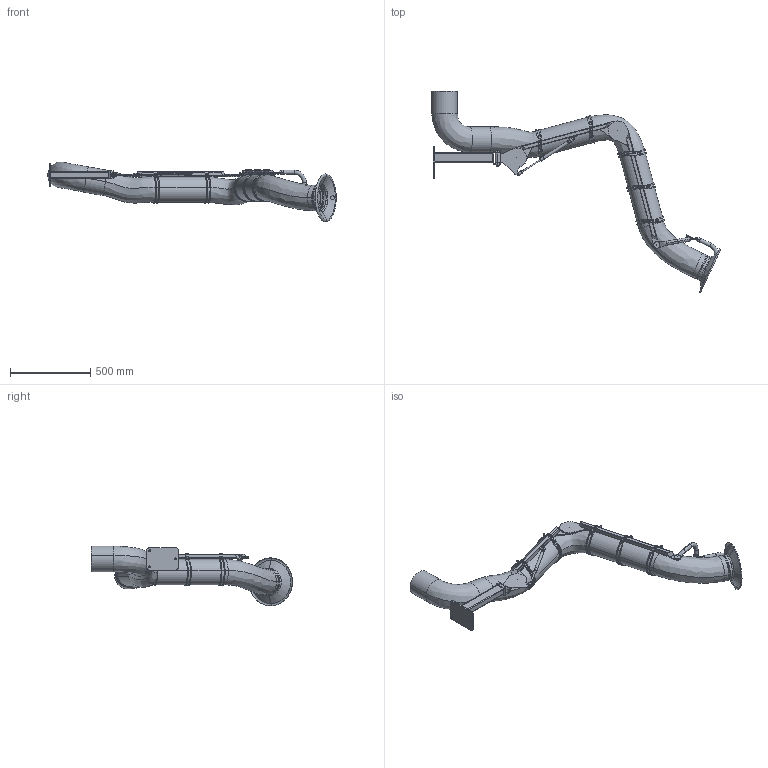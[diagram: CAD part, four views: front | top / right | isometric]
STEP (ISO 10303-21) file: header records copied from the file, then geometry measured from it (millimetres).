
FILE_DESCRIPTION((''),'2;1');
FILE_NAME('PSR_2000-160_EXD','2022-10-04T11:35:47',('Tomas Bellgran'),(''),'CREO PARAMETRIC BY PTC INC, 2018260','CREO PARAMETRIC BY PTC INC, 2018260','');
FILE_SCHEMA(('AUTOMOTIVE_DESIGN { 1 0 10303 214 1 1 1 1 }'));
Length unit declared in the file: millimetre
Products named in the file (35): 141554; 141580; 141581; 122701; 141512; 141556; 141582; 141587; 141522; 121391; 131150; 139382; 131151; 131172; 144356; 141589; 134343_AF0; G_P136_WELD-REF; 141590; 122717_LIGHT; 120127_COMPL_LIGHT; 130315; ROD_STAB_8-160-REF; 131095; 130320_AF27; 131145; 139631; 139616; 139615; 139614; 139628; 141640; 124460; 107523-11; PSR_2000-160_EXD
Assembly tree (50 placements, depth 3):
  PSR_2000-160_EXD
    141512
      141554
      141580
      141581
      122701
    141522
      141556
      141582
      141587
    121391  x4
    131150
    131172
      139382
      131151
    144356  x2
    141590
      141589
      134343_AF0
      G_P136_WELD-REF
    122717_LIGHT
    120127_COMPL_LIGHT
    130320_AF27
      130315
      ROD_STAB_8-160-REF
      131095  x2
    131145  x2
    139628
      139631  x3
      139616
      139615
      139614
    141640
    124460  x5
    107523-11  x5
Bounding box: 1795.28 x 1252.27 x 372.76 mm (x, y, z)
Volume: 51302417.7 mm3; surface area: 2096315 mm2
Topology: 44 solids, 44 shells, 1018 faces, 2420 edges, 1490 vertices
Faces by surface type: plane 364, cylinder 327, bspline 198, torus 70, cone 42, extrusion 15, sphere 2
Entity records: 35826 total; most frequent: CARTESIAN_POINT 12846, DIRECTION 2956, ORIENTED_EDGE 2680, PRESENTATION_STYLE_ASSIGNMENT 1863, STYLED_ITEM 1836, CURVE_STYLE 1347, EDGE_CURVE 1340, AXIS2_PLACEMENT_3D 1173
